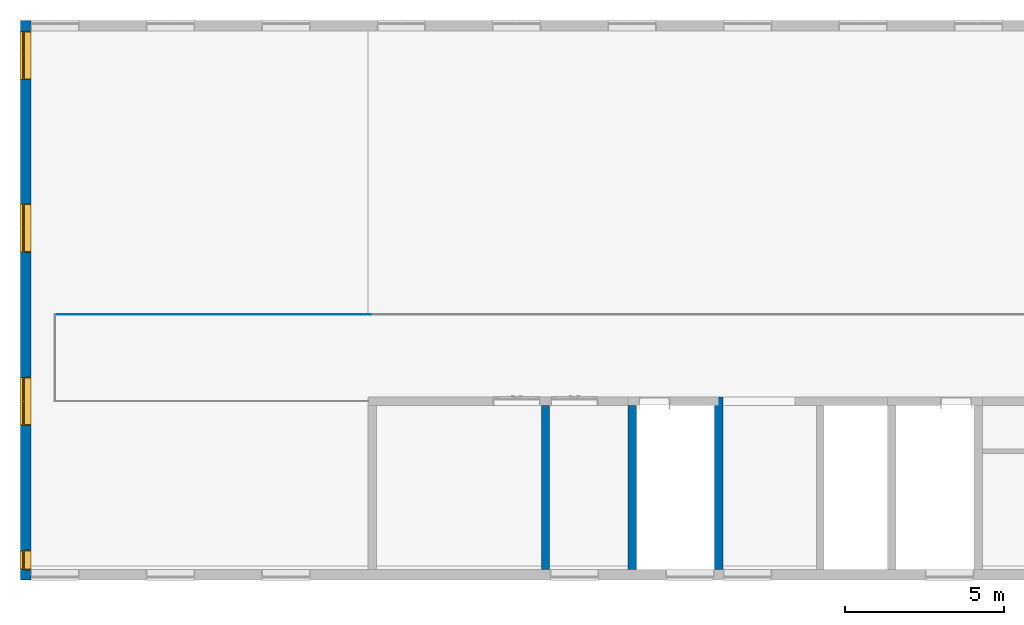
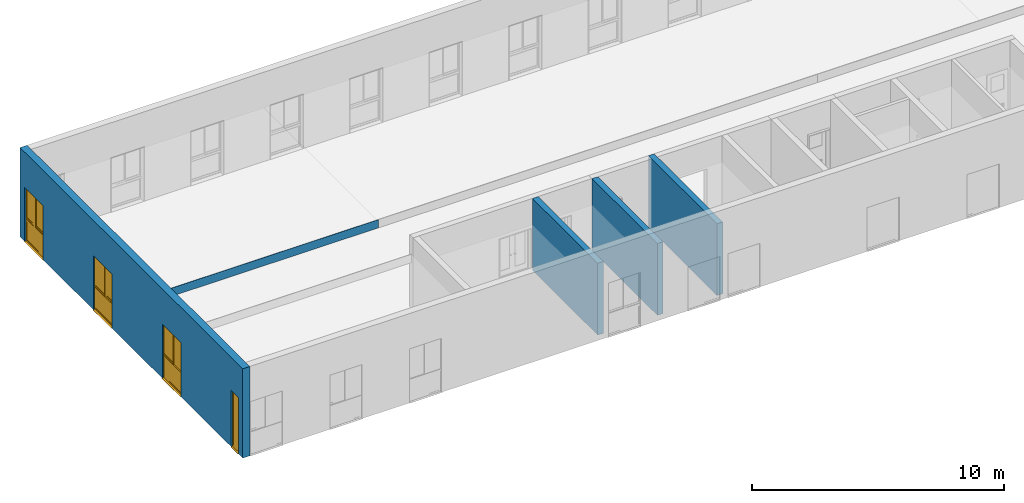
# One storey, part 3 of 11: 5 walls, 4 windows, 7 openings.
"""IFC4X3 building model written with IfcOpenShell, lengths in millimetres."""

from ifc_helpers import new_model, entity, si_unit, converted_unit, derived_unit, direction, frame, frame_2d, origin, origin_2d_with_axis, place, context, subcontext, project, spatial, polyline, rectangle, outline, extrude, faceted_brep, source, transform, mapped, material, layer, layer_set, constituent, constituent_set, type_object, type_shapes, element, fill, save


model = new_model("IFC4X3")

# Units and contexts
model_context = context("Model", 3, precision=0.01, world=origin(), true_north=direction((6.12303176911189e-17, 1.0)))
body_context = subcontext(model_context, "Body", "Model", "MODEL_VIEW")
ifc_project = project(units=[si_unit("LENGTHUNIT", "METRE", prefix="MILLI"), si_unit("AREAUNIT", "SQUARE_METRE"), si_unit("VOLUMEUNIT", "CUBIC_METRE"), converted_unit("PLANEANGLEUNIT", "DEGREE", entity("IfcPlaneAngleMeasure", 0.0174532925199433), si_unit("PLANEANGLEUNIT", "RADIAN"), dimensions=[0, 0, 0, 0, 0, 0, 0]), si_unit("MASSUNIT", "GRAM", prefix="KILO"), derived_unit("MASSDENSITYUNIT", [(si_unit("MASSUNIT", "GRAM", prefix="KILO"), 1), (si_unit("LENGTHUNIT", "METRE"), -3)]), derived_unit("IONCONCENTRATIONUNIT", [(si_unit("MASSUNIT", "GRAM", prefix="KILO"), 1), (si_unit("LENGTHUNIT", "METRE"), -3)]), derived_unit("MOMENTOFINERTIAUNIT", [(si_unit("LENGTHUNIT", "METRE"), 4)]), si_unit("TIMEUNIT", "SECOND"), si_unit("FREQUENCYUNIT", "HERTZ"), si_unit("THERMODYNAMICTEMPERATUREUNIT", "DEGREE_CELSIUS"), derived_unit("THERMALTRANSMITTANCEUNIT", [(si_unit("MASSUNIT", "GRAM", prefix="KILO"), 1), (si_unit("THERMODYNAMICTEMPERATUREUNIT", "KELVIN"), -1), (si_unit("TIMEUNIT", "SECOND"), -3)]), derived_unit("THERMALCONDUCTANCEUNIT", [(si_unit("MASSUNIT", "GRAM", prefix="KILO"), 1), (si_unit("THERMODYNAMICTEMPERATUREUNIT", "KELVIN"), -1), (si_unit("TIMEUNIT", "SECOND"), -3), (si_unit("LENGTHUNIT", "METRE"), 1)]), derived_unit("VOLUMETRICFLOWRATEUNIT", [(si_unit("LENGTHUNIT", "METRE", prefix="DECI"), 3), (si_unit("TIMEUNIT", "SECOND"), -1)]), derived_unit("MASSFLOWRATEUNIT", [(si_unit("MASSUNIT", "GRAM", prefix="KILO"), 1), (si_unit("TIMEUNIT", "SECOND"), -1)]), derived_unit("ROTATIONALFREQUENCYUNIT", [(si_unit("TIMEUNIT", "SECOND"), -1)]), si_unit("ELECTRICCURRENTUNIT", "AMPERE"), si_unit("ELECTRICVOLTAGEUNIT", "VOLT"), si_unit("POWERUNIT", "WATT"), si_unit("FORCEUNIT", "NEWTON", prefix="KILO"), si_unit("ILLUMINANCEUNIT", "LUX"), si_unit("LUMINOUSFLUXUNIT", "LUMEN"), si_unit("LUMINOUSINTENSITYUNIT", "CANDELA"), si_unit("ENERGYUNIT", "JOULE"), derived_unit("USERDEFINED", [(si_unit("MASSUNIT", "GRAM", prefix="KILO"), -1), (si_unit("LENGTHUNIT", "METRE"), -2), (si_unit("TIMEUNIT", "SECOND"), 3), (si_unit("LUMINOUSFLUXUNIT", "LUMEN"), 1)]), derived_unit("USERDEFINED", [(si_unit("MASSUNIT", "GRAM", prefix="KILO"), 1), (si_unit("TIMEUNIT", "SECOND"), -3), (si_unit("LENGTHUNIT", "METRE"), 3), (si_unit("ELECTRICCURRENTUNIT", "AMPERE"), -2)]), derived_unit("SOUNDPOWERUNIT", [(si_unit("MASSUNIT", "GRAM", prefix="KILO"), 1), (si_unit("TIMEUNIT", "SECOND"), -3), (si_unit("LENGTHUNIT", "METRE"), 2)]), derived_unit("SOUNDPRESSUREUNIT", [(si_unit("MASSUNIT", "GRAM", prefix="KILO"), 1), (si_unit("LENGTHUNIT", "METRE"), -1), (si_unit("TIMEUNIT", "SECOND"), -2)]), derived_unit("LINEARVELOCITYUNIT", [(si_unit("LENGTHUNIT", "METRE"), 1), (si_unit("TIMEUNIT", "SECOND"), -1)]), si_unit("PRESSUREUNIT", "PASCAL"), derived_unit("USERDEFINED", [(si_unit("MASSUNIT", "GRAM", prefix="KILO"), 1), (si_unit("LENGTHUNIT", "METRE"), -2), (si_unit("TIMEUNIT", "SECOND"), -2)]), derived_unit("LINEARFORCEUNIT", [(si_unit("MASSUNIT", "GRAM", prefix="KILO"), 1), (si_unit("TIMEUNIT", "SECOND"), -2)]), derived_unit("PLANARFORCEUNIT", [(si_unit("MASSUNIT", "GRAM", prefix="KILO"), 1), (si_unit("LENGTHUNIT", "METRE"), -1), (si_unit("TIMEUNIT", "SECOND"), -2)]), derived_unit("SPECIFICHEATCAPACITYUNIT", [(si_unit("THERMODYNAMICTEMPERATUREUNIT", "KELVIN"), -1), (si_unit("LENGTHUNIT", "METRE"), 2), (si_unit("TIMEUNIT", "SECOND"), -2)]), derived_unit("HEATFLUXDENSITYUNIT", [(si_unit("MASSUNIT", "GRAM", prefix="KILO"), 1), (si_unit("TIMEUNIT", "SECOND"), -3)]), derived_unit("HEATINGVALUEUNIT", [(si_unit("LENGTHUNIT", "METRE"), 2), (si_unit("TIMEUNIT", "SECOND"), -2)]), derived_unit("VAPORPERMEABILITYUNIT", [(si_unit("LENGTHUNIT", "METRE"), -1), (si_unit("TIMEUNIT", "SECOND"), 1)]), derived_unit("DYNAMICVISCOSITYUNIT", [(si_unit("MASSUNIT", "GRAM", prefix="KILO"), 1), (si_unit("TIMEUNIT", "SECOND"), -1), (si_unit("LENGTHUNIT", "METRE"), -1)]), derived_unit("THERMALEXPANSIONCOEFFICIENTUNIT", [(si_unit("THERMODYNAMICTEMPERATUREUNIT", "KELVIN"), -1)]), derived_unit("MODULUSOFELASTICITYUNIT", [(si_unit("MASSUNIT", "GRAM", prefix="KILO"), 1), (si_unit("LENGTHUNIT", "METRE"), -1), (si_unit("TIMEUNIT", "SECOND"), -2)]), derived_unit("ISOTHERMALMOISTURECAPACITYUNIT", [(si_unit("MASSUNIT", "GRAM", prefix="KILO"), -1), (si_unit("LENGTHUNIT", "METRE"), 3)]), derived_unit("MOISTUREDIFFUSIVITYUNIT", [(si_unit("TIMEUNIT", "SECOND"), -1), (si_unit("LENGTHUNIT", "METRE"), 2)]), derived_unit("AREADENSITYUNIT", [(si_unit("MASSUNIT", "GRAM", prefix="KILO"), 1), (si_unit("LENGTHUNIT", "METRE"), 2)]), derived_unit("MASSPERLENGTHUNIT", [(si_unit("MASSUNIT", "GRAM", prefix="KILO"), 1), (si_unit("LENGTHUNIT", "METRE"), -1)]), derived_unit("THERMALRESISTANCEUNIT", [(si_unit("MASSUNIT", "GRAM", prefix="KILO"), -1), (si_unit("TIMEUNIT", "SECOND"), 3), (si_unit("THERMODYNAMICTEMPERATUREUNIT", "KELVIN"), 1)]), derived_unit("ACCELERATIONUNIT", [(si_unit("LENGTHUNIT", "METRE"), 1), (si_unit("TIMEUNIT", "SECOND"), -2)]), derived_unit("ANGULARVELOCITYUNIT", [(si_unit("TIMEUNIT", "SECOND"), -1), (si_unit("PLANEANGLEUNIT", "RADIAN"), 1)]), derived_unit("LINEARSTIFFNESSUNIT", [(si_unit("MASSUNIT", "GRAM", prefix="KILO"), 1), (si_unit("TIMEUNIT", "SECOND"), -2)]), derived_unit("WARPINGCONSTANTUNIT", [(si_unit("LENGTHUNIT", "METRE"), 6)]), derived_unit("LINEARMOMENTUNIT", [(si_unit("MASSUNIT", "GRAM", prefix="KILO"), 1), (si_unit("LENGTHUNIT", "METRE"), 1), (si_unit("TIMEUNIT", "SECOND"), -2)]), derived_unit("TORQUEUNIT", [(si_unit("MASSUNIT", "GRAM", prefix="KILO"), 1), (si_unit("LENGTHUNIT", "METRE"), 2), (si_unit("TIMEUNIT", "SECOND"), -2)])], contexts=[model_context])

# Site, building, storey
site_placement = place(None, origin())
site = spatial("IfcSite", under=ifc_project, at=site_placement, Name="Default", CompositionType="ELEMENT")
building_placement = place(site_placement, origin())
building = spatial("IfcBuilding", under=site, at=building_placement, Name="事務所ビル", CompositionType="ELEMENT")
storey_placement = place(building_placement, frame((0.0, 0.0, 8000.0)))
storey = spatial("IfcBuildingStorey", under=building, at=storey_placement, Name="3FL", CompositionType="ELEMENT", Elevation=8000.0)

# Wall, openings, windows
ifc_material_1 = material(Name="<Unnamed>")
ifc_layer_1 = layer(ifc_material_1, 46.0, Name="Layer")
ifc_material_2 = material(Name="合板", Category="一般")
ifc_layer_2 = layer(ifc_material_2, 12.0, Name="合板", Category="一般")
ifc_material_3 = material(Name="天然木材", Category="一般")
ifc_layer_3 = layer(ifc_material_3, 240.0, Name="天然木材", Category="一般")
ifc_layer_4 = layer(ifc_material_2, 12.0, Name="合板", Category="一般")
ifc_material_4 = material(Name="せっこうボード", Category="一般")
ifc_layer_5 = layer(ifc_material_4, 15.0, Name="せっこうボード", Category="一般")
ifc_layer_set_1 = layer_set([ifc_layer_1, ifc_layer_2, ifc_layer_3, ifc_layer_4, ifc_layer_5], Name="標準壁:外装材46_構造用合板12_木240_構造用合板12_GB-R15")
wall_type_1 = type_object("IfcWallType", Name="標準壁:外装材46_構造用合板12_木240_構", PredefinedType="STANDARD", material=ifc_layer_set_1)
wall_1_placement = place(storey_placement, frame((-15.5000000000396, -178.0, 0.0), z_axis=(0.0, 0.0, 1.0), x_axis=(0.0, 1.0, 0.0)))
wall_1 = element("IfcWall", 1, at=wall_1_placement, inside=storey, type_object=wall_type_1, material=ifc_layer_set_1, Name="標準壁:外装材46_構造用合板12_木240_構造用合板12_GB-R15", ObjectType="標準壁:外装材46_構造用合板12_木240_構造用合板12_GB-R15", PredefinedType="NOTDEFINED", context=body_context, shape_type="SweptSolid", body=[
    extrude(rectangle(XDim=17646.0, YDim=325.0, at=frame_2d((8823.0, -2.8421709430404e-14), x_axis=(-1.0, 0.0))), origin(), (0.0, 0.0, 1.0), 4320.0),
])
opening_1_placement = place(wall_1_placement, frame((178.0, -15.5000000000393, 0.0)))
element("IfcOpeningElement", 2, at=opening_1_placement, cuts=wall_1, Name="標準壁:外装材46_構造用合板12_木240_構造用合板12_GB-R15", PredefinedType="OPENING", context=body_context, shape_type="Brep", body=[
    faceted_brep([(17133.0, -145.0, -35.0), (17133.0, -145.0, 2635.0), (17338.0, -145.0, 2635.0), (17338.0, -145.0, -35.0), (17133.0, -1675.0, -35.0), (17338.0, -1675.0, -35.0), (17338.0, -1675.0, 2635.0), (17133.0, -1675.0, 2635.0), (17338.0, -155.0, -35.0), (17338.0, -1665.0, -35.0), (17338.0, -1665.0, 2630.0), (17338.0, -155.0, 2630.0), (17408.0, -155.0, 2630.0), (17408.0, -155.0, -115.769230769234), (17338.0, -155.0, -105.0), (17338.0, -1665.0, -105.0), (17408.0, -1665.0, -115.769230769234), (17408.0, -1665.0, 2630.0), (17408.0, -175.0, 2610.0), (17408.0, -175.0, -10.0), (17408.0, -1645.0, -10.0), (17408.0, -1645.0, 2610.0), (17468.0, -175.0, 2610.0), (17468.0, -175.0, -10.0), (17468.0, -1645.0, -10.0), (17468.0, -1645.0, 2610.0)], [[[0, 1, 2, 3]], [[4, 5, 6, 7]], [[0, 3, 8, 9, 5, 4]], [[3, 2, 6, 5, 9, 10, 11, 8]], [[2, 1, 7, 6]], [[1, 0, 4, 7]], [[11, 12, 13, 14, 8]], [[15, 16, 17, 10, 9]], [[14, 13, 16, 15]], [[13, 12, 17, 16], [18, 19, 20, 21]], [[12, 11, 10, 17]], [[14, 15, 9, 8]], [[18, 22, 23, 19]], [[20, 24, 25, 21]], [[19, 23, 24, 20]], [[23, 22, 25, 24]], [[22, 18, 21, 25]]]),
])
opening_2_placement = place(wall_1_placement, frame((178.0, -15.5000000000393, 0.0)))
element("IfcOpeningElement", 3, at=opening_2_placement, cuts=wall_1, Name="標準壁:外装材46_構造用合板12_木240_構造用合板12_GB-R15", PredefinedType="OPENING", context=body_context, shape_type="Brep", body=[
    faceted_brep([(157.0, -145.0, -35.0), (-48.0, -145.0, -35.0), (-48.0, -145.0, 2635.0), (157.0, -145.0, 2635.0), (157.0, -1675.0, -35.0), (157.0, -1675.0, 2635.0), (-48.0, -1675.0, 2635.0), (-48.0, -1675.0, -35.0), (-48.0, -1665.0, -35.0), (-48.0, -155.0, -35.0), (-48.0, -155.0, 2630.0), (-48.0, -1665.0, 2630.0), (-48.0, -155.0, -105.0), (-118.0, -155.0, -115.769230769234), (-118.0, -155.0, 2630.0), (-48.0, -1665.0, -105.0), (-118.0, -1665.0, 2630.0), (-118.0, -1665.0, -115.769230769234), (-118.0, -175.0, 2610.0), (-118.0, -1645.0, 2610.0), (-118.0, -1645.0, -10.0), (-118.0, -175.0, -10.0), (-178.0, -175.0, -10.0), (-178.0, -175.0, 2610.0), (-178.0, -1645.0, 2610.0), (-178.0, -1645.0, -10.0)], [[[0, 1, 2, 3]], [[4, 5, 6, 7]], [[0, 4, 7, 8, 9, 1]], [[1, 9, 10, 11, 8, 7, 6, 2]], [[2, 6, 5, 3]], [[3, 5, 4, 0]], [[10, 9, 12, 13, 14]], [[15, 8, 11, 16, 17]], [[12, 15, 17, 13]], [[13, 17, 16, 14], [18, 19, 20, 21]], [[14, 16, 11, 10]], [[12, 9, 8, 15]], [[18, 21, 22, 23]], [[20, 19, 24, 25]], [[21, 20, 25, 22]], [[22, 25, 24, 23]], [[23, 24, 19, 18]]]),
])
opening_3_placement = place(wall_1_placement, frame((178.0, -15.5000000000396, 0.0), z_axis=(0.0, 0.0, 1.0), x_axis=(0.0, -1.0, 0.0)))
opening_3 = element("IfcOpeningElement", 4, at=opening_3_placement, cuts=wall_1, Name="標準壁:外装材46_構造用合板12_木240_構造用合板12_GB-R15", PredefinedType="OPENING", context=body_context, shape_type="Brep", body=[
    faceted_brep([(-48.0, 15611.4999999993, -105.0), (-48.0, 17121.4999999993, -105.0), (-48.0, 17121.4999999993, -35.0), (-48.0, 15611.4999999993, -35.0), (-118.0, 15631.4999999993, 2610.0), (-178.0, 15631.4999999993, 2610.0), (-178.0, 15631.4999999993, -10.0), (-118.0, 15631.4999999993, -10.0), (-118.0, 17101.4999999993, -10.0), (-178.0, 17101.4999999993, -10.0), (-178.0, 17101.4999999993, 2610.0), (-118.0, 17101.4999999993, 2610.0), (157.0, 15601.4999999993, -35.0), (157.0, 15601.4999999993, 2635.0), (-48.0, 15601.4999999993, 2635.0), (-48.0, 15601.4999999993, -35.0), (157.0, 17131.4999999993, -35.0), (-48.0, 17131.4999999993, -35.0), (-48.0, 17131.4999999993, 2635.0), (157.0, 17131.4999999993, 2635.0), (-48.0, 17121.4999999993, 2630.0), (-48.0, 15611.4999999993, 2630.0), (-118.0, 15611.4999999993, 2630.0), (-118.0, 15611.4999999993, -115.769230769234), (-118.0, 17121.4999999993, -115.769230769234), (-118.0, 17121.4999999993, 2630.0)], [[[0, 1, 2, 3]], [[4, 5, 6, 7]], [[8, 9, 10, 11]], [[7, 6, 9, 8]], [[5, 4, 11, 10]], [[12, 13, 14, 15]], [[16, 17, 18, 19]], [[12, 15, 3, 2, 17, 16]], [[15, 14, 18, 17, 2, 20, 21, 3]], [[14, 13, 19, 18]], [[13, 12, 16, 19]], [[21, 22, 23, 0, 3]], [[1, 24, 25, 20, 2]], [[0, 23, 24, 1]], [[23, 22, 25, 24], [4, 7, 8, 11]], [[22, 21, 20, 25]], [[6, 5, 10, 9]]]),
])
opening_4_placement = place(wall_1_placement, frame((178.0, -15.5000000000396, 0.0), z_axis=(0.0, 0.0, 1.0), x_axis=(0.0, -1.0, 0.0)))
opening_4 = element("IfcOpeningElement", 5, at=opening_4_placement, cuts=wall_1, Name="標準壁:外装材46_構造用合板12_木240_構造用合板12_GB-R15", PredefinedType="OPENING", context=body_context, shape_type="Brep", body=[
    faceted_brep([(-48.0, 10165.0, -105.0), (-48.0, 11675.0, -105.0), (-48.0, 11675.0, -35.0), (-48.0, 10165.0, -35.0), (-118.0, 10185.0, 2610.0), (-178.0, 10185.0, 2610.0), (-178.0, 10185.0, -10.0), (-118.0, 10185.0, -10.0), (-118.0, 11655.0, -10.0), (-178.0, 11655.0, -10.0), (-178.0, 11655.0, 2610.0), (-118.0, 11655.0, 2610.0), (157.0, 10155.0, -35.0), (157.0, 10155.0, 2635.0), (-48.0, 10155.0, 2635.0), (-48.0, 10155.0, -35.0), (157.0, 11685.0, -35.0), (-48.0, 11685.0, -35.0), (-48.0, 11685.0, 2635.0), (157.0, 11685.0, 2635.0), (-48.0, 11675.0, 2630.0), (-48.0, 10165.0, 2630.0), (-118.0, 10165.0, 2630.0), (-118.0, 10165.0, -115.769230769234), (-118.0, 11675.0, -115.769230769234), (-118.0, 11675.0, 2630.0)], [[[0, 1, 2, 3]], [[4, 5, 6, 7]], [[8, 9, 10, 11]], [[7, 6, 9, 8]], [[5, 4, 11, 10]], [[12, 13, 14, 15]], [[16, 17, 18, 19]], [[12, 15, 3, 2, 17, 16]], [[15, 14, 18, 17, 2, 20, 21, 3]], [[14, 13, 19, 18]], [[13, 12, 16, 19]], [[21, 22, 23, 0, 3]], [[1, 24, 25, 20, 2]], [[0, 23, 24, 1]], [[23, 22, 25, 24], [4, 7, 8, 11]], [[22, 21, 20, 25]], [[6, 5, 10, 9]]]),
])
opening_5_placement = place(wall_1_placement, frame((178.0, -15.5000000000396, 0.0), z_axis=(0.0, 0.0, 1.0), x_axis=(0.0, -1.0, 0.0)))
opening_5 = element("IfcOpeningElement", 6, at=opening_5_placement, cuts=wall_1, Name="標準壁:外装材46_構造用合板12_木240_構造用合板12_GB-R15", PredefinedType="OPENING", context=body_context, shape_type="Brep", body=[
    faceted_brep([(-48.0, 4705.0, -105.0), (-48.0, 6215.0, -105.0), (-48.0, 6215.0, -35.0), (-48.0, 4705.0, -35.0), (-118.0, 4725.0, 2610.0), (-178.0, 4725.0, 2610.0), (-178.0, 4725.0, -10.0), (-118.0, 4725.0, -10.0), (-118.0, 6195.0, -10.0), (-178.0, 6195.0, -10.0), (-178.0, 6195.0, 2610.0), (-118.0, 6195.0, 2610.0), (157.0, 4695.0, -35.0), (157.0, 4695.0, 2635.0), (-48.0, 4695.0, 2635.0), (-48.0, 4695.0, -35.0), (157.0, 6225.0, -35.0), (-48.0, 6225.0, -35.0), (-48.0, 6225.0, 2635.0), (157.0, 6225.0, 2635.0), (-48.0, 6215.0, 2630.0), (-48.0, 4705.0, 2630.0), (-118.0, 4705.0, 2630.0), (-118.0, 4705.0, -115.769230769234), (-118.0, 6215.0, -115.769230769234), (-118.0, 6215.0, 2630.0)], [[[0, 1, 2, 3]], [[4, 5, 6, 7]], [[8, 9, 10, 11]], [[7, 6, 9, 8]], [[5, 4, 11, 10]], [[12, 13, 14, 15]], [[16, 17, 18, 19]], [[12, 15, 3, 2, 17, 16]], [[15, 14, 18, 17, 2, 20, 21, 3]], [[14, 13, 19, 18]], [[13, 12, 16, 19]], [[21, 22, 23, 0, 3]], [[1, 24, 25, 20, 2]], [[0, 23, 24, 1]], [[23, 22, 25, 24], [4, 7, 8, 11]], [[22, 21, 20, 25]], [[6, 5, 10, 9]]]),
])
opening_6_placement = place(wall_1_placement, frame((178.0, -15.5000000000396, 0.0), z_axis=(0.0, 0.0, 1.0), x_axis=(0.0, -1.0, 0.0)))
opening_6 = element("IfcOpeningElement", 7, at=opening_6_placement, cuts=wall_1, Name="標準壁:外装材46_構造用合板12_木240_構造用合板12_GB-R15", PredefinedType="OPENING", context=body_context, shape_type="Brep", body=[
    faceted_brep([(-48.0, 765.0, -35.0), (-48.0, 755.0, -35.0), (-48.0, 755.0, 2730.0), (-48.0, 155.0, 2730.0), (-48.0, 155.0, -35.0), (-48.0, 145.0, -35.0), (-48.0, 145.0, 2735.0), (-48.0, 765.0, 2735.0), (-118.0, 755.0, -115.769230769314), (-118.0, 735.0, -115.769230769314), (-118.0, 735.0, 2710.0), (-118.0, 175.0, 2710.0), (-118.0, 175.0, -115.769230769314), (-118.0, 155.0, -115.769230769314), (-118.0, 155.0, 2730.0), (-118.0, 755.0, 2730.0), (157.0, 765.0, -35.0), (157.0, 765.0, 2735.0), (157.0, 145.0, -35.0), (157.0, 145.0, 2735.0), (-48.0, 755.0, -105.0), (-48.0, 155.0, -105.0), (-178.0, 175.0, -125.0), (-178.0, 735.0, -125.0), (-178.0, 735.0, 2710.0), (-178.0, 175.0, 2710.0)], [[[0, 1, 2, 3, 4, 5, 6, 7]], [[8, 9, 10, 11, 12, 13, 14, 15]], [[16, 0, 7, 17]], [[18, 19, 6, 5]], [[16, 18, 5, 4, 1, 0]], [[7, 6, 19, 17]], [[17, 19, 18, 16]], [[2, 1, 20, 8, 15]], [[21, 4, 3, 14, 13]], [[20, 21, 13, 12, 22, 23, 9, 8]], [[15, 14, 3, 2]], [[20, 1, 4, 21]], [[10, 9, 23, 24]], [[12, 11, 25, 22]], [[23, 22, 25, 24]], [[24, 25, 11, 10]]]),
])
ifc_material_5 = material(Name="ガラス - 透明", Category="未設定")
ifc_constituent_1 = constituent(ifc_material_5, Name="ガラス - 透明", Category="未設定")
ifc_material_6 = material(Name="金属 - アルミニウム", Category="未設定")
ifc_constituent_2 = constituent(ifc_material_6, Name="金属 - アルミニウム", Category="未設定")
ifc_material_7 = material(Name="塗装 - 白", Category="未設定")
ifc_constituent_3 = constituent(ifc_material_7, Name="塗装 - 白", Category="未設定")
ifc_constituent_set_1 = constituent_set(constituents=[ifc_constituent_1, ifc_constituent_2, ifc_constituent_3])
ifc_constituent_4 = constituent(ifc_material_5, Name="ガラス", Category="未設定")
ifc_constituent_5 = constituent(ifc_material_6, Name="フレーム/マリオン", Category="未設定")
ifc_constituent_6 = constituent(ifc_material_7, Name="縁飾り", Category="未設定")
ifc_constituent_set_2 = constituent_set(constituents=[ifc_constituent_4, ifc_constituent_5, ifc_constituent_6])
window_type_1 = type_object("IfcWindowType", Name="鋼製_一般枠_2 段 1 列_嵌殺し+引違い:", ParameterTakesPrecedence=False, PartitioningType="NOTDEFINED", PredefinedType="WINDOW", material=ifc_constituent_set_2)
shared_shape_1 = source(origin(), body_context, "Body", "SweptSolid", [
    extrude(rectangle(XDim=664.999999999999, YDim=5.00000000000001, at=frame_2d((2.8421709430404e-14, 0.0), x_axis=(1.0, 0.0))), frame((412.500000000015, 212.500000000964, 1295.76923076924)), (0.0, 0.0, 1.0), 1379.99999999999),
    extrude(rectangle(XDim=664.999999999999, YDim=5.0, at=frame_2d((-2.8421709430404e-14, -8.43769498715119e-15), x_axis=(1.0, 0.0))), frame((1117.50000000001, 242.500000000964, 1295.76923076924)), (0.0, 0.0, 1.0), 1379.99999999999),
    extrude(outline(polyline([(-372.5, -750.0), (372.5, -750.0), (372.5, 750.0), (-372.5, 750.0), (-372.5, -750.0)]), holes=[polyline([(-332.5, -670.0), (-332.5, 710.0), (332.5, 710.0), (332.5, -670.0), (-332.5, -670.0)])]), frame((412.500000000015, 220.0, 1965.76923076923), z_axis=(0.0, -1.0, 0.0), x_axis=(1.0, 0.0, 0.0)), (0.0, 0.0, 1.0), 30.0),
    extrude(outline(polyline([(-372.5, -750.0), (372.5, -750.0), (372.5, 750.0), (-372.5, 750.0), (-372.5, -750.0)]), holes=[polyline([(-332.5, -670.0), (-332.5, 710.0), (332.499999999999, 710.0), (332.499999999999, -670.0), (-332.5, -670.0)])]), frame((1117.50000000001, 250.0, 1965.76923076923), z_axis=(0.0, -1.0, 0.0), x_axis=(1.0, 0.0, 0.0)), (0.0, 0.0, 1.0), 30.0),
    extrude(rectangle(XDim=1370.0, YDim=5.0, at=frame_2d((0.0, -8.43769498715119e-15), x_axis=(1.0, 0.0))), frame((765.0, 242.500000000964, 205.769230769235)), (0.0, 0.0, 1.0), 869.999999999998),
    extrude(outline(polyline([(-725.0, -500.0), (725.0, -500.0), (725.0, 500.0), (-725.0, 500.0), (-725.0, -500.0)]), holes=[polyline([(-685.0, -410.0), (-685.0, 460.0), (685.0, 460.0), (685.0, -410.0), (-685.0, -410.0)])]), frame((765.0, 250.0, 615.769230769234), z_axis=(0.0, -1.0, 0.0), x_axis=(1.0, 0.0, 0.0)), (0.0, 0.0, 1.0), 30.0),
    extrude(outline(polyline([(0.116728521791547, -43.8885662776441), (10.1167285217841, -43.8885662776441), (10.1167285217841, -38.8900180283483), (4.2582136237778, -38.8900180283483), (-5.07531327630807, 31.1114337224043), (0.116728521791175, 31.1114337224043), (0.116728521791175, 36.1114337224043), (-9.88327147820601, 36.1114337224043), (-9.88327147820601, 31.1114337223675), (0.116728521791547, -43.8885662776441)])), frame((1520.0, 286.11143372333, 115.885959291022), z_axis=(-1.0, 0.0, 0.0), x_axis=(0.0, 0.0, -1.0)), (0.0, 0.0, 1.0), 1510.0),
    extrude(rectangle(XDim=1530.0, YDim=205.000000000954, at=frame_2d((-5.6843418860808e-14, 0.0), x_axis=(1.0, 0.0))), frame((765.0, 82.5000000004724, 105.769230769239)), (0.0, 0.0, 1.0), 9.99999999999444),
    extrude(outline(polyline([(740.0, -1311.25000000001), (765.0, -1311.25000000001), (765.0, 1323.75000000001), (-765.0, 1323.75000000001), (-765.0, -1311.25000000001), (-740.0, -1311.25000000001), (-740.0, 1298.75000000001), (740.0, 1298.75000000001), (740.0, -1311.25000000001)])), frame((765.0, 185.0, 1427.01923076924), z_axis=(0.0, -1.0, 0.0), x_axis=(1.0, 0.0, 0.0)), (0.0, 0.0, 1.0), 205.000000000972),
    extrude(outline(polyline([(725.0, -1307.5), (755.0, -1307.5), (755.0, 1322.5), (-755.0, 1322.5), (-755.0, -1307.5), (-725.0, -1307.5), (-725.0, 1292.5), (725.0, 1292.5), (725.0, -1307.5)])), frame((765.0, 255.0, 1423.26923076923), z_axis=(0.0, -1.0, 0.0), x_axis=(1.0, 0.0, 0.0)), (0.0, 0.0, 1.0), 69.9999999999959),
    extrude(rectangle(XDim=70.0, YDim=1450.0, at=frame_2d((0.0, 5.6843418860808e-14), x_axis=(1.0, 0.0))), frame((765.0, 220.0, 105.769230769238), z_axis=(0.0, 0.0, 1.0), x_axis=(0.0, 1.0, 0.0)), (0.0, 0.0, 1.0), 18.7551639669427),
    extrude(outline(polyline([(-35.0, -47.4999999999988), (35.0, -47.4999999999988), (35.0, 52.4999999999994), (-35.0, 42.4999999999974), (-35.0, -47.4999999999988)])), frame((1490.0, 220.0, 1163.26923076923), z_axis=(-1.0, 0.0, 0.0), x_axis=(0.0, -1.0, 0.0)), (0.0, 0.0, 1.0), 1450.0),
])
type_shapes(window_type_1, [shared_shape_1])
window_1_placement = place(opening_5_placement, frame((137.0, 4695.0, -115.769230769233), z_axis=(0.0, 0.0, 1.0), x_axis=(0.0, 1.0, 0.0)))
window_1 = element("IfcWindow", 8, at=window_1_placement, inside=storey, type_object=window_type_1, material=ifc_constituent_set_1, Name="鋼製_一般枠_2 段 1 列_嵌殺し+引違い:1450x2600", ObjectType="鋼製_一般枠_2 段 1 列_嵌殺し+引違い:1450x2600", OverallHeight=2760.00000000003, OverallWidth=1532.0, PartitioningType="NOTDEFINED", PredefinedType="WINDOW", context=body_context, shape_type="MappedRepresentation", body=[
    mapped(shared_shape_1, transform((0.0, 0.0, 0.0), scale=1.0)),
])
fill(opening_5, window_1)
ifc_constituent_7 = constituent(ifc_material_5, Name="ガラス - 透明", Category="未設定")
ifc_constituent_8 = constituent(ifc_material_6, Name="金属 - アルミニウム", Category="未設定")
ifc_constituent_9 = constituent(ifc_material_7, Name="塗装 - 白", Category="未設定")
ifc_constituent_set_3 = constituent_set(constituents=[ifc_constituent_7, ifc_constituent_8, ifc_constituent_9])
window_2_placement = place(opening_4_placement, frame((137.0, 10155.0, -115.769230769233), z_axis=(0.0, 0.0, 1.0), x_axis=(0.0, 1.0, 0.0)))
window_2 = element("IfcWindow", 9, at=window_2_placement, inside=storey, type_object=window_type_1, material=ifc_constituent_set_3, Name="鋼製_一般枠_2 段 1 列_嵌殺し+引違い:1450x2600", ObjectType="鋼製_一般枠_2 段 1 列_嵌殺し+引違い:1450x2600", OverallHeight=2760.00000000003, OverallWidth=1532.0, PartitioningType="NOTDEFINED", PredefinedType="WINDOW", context=body_context, shape_type="MappedRepresentation", body=[
    mapped(shared_shape_1, transform((0.0, 0.0, 0.0), scale=1.0)),
])
fill(opening_4, window_2)
ifc_constituent_10 = constituent(ifc_material_5, Name="ガラス - 透明", Category="未設定")
ifc_constituent_11 = constituent(ifc_material_6, Name="金属 - アルミニウム", Category="未設定")
ifc_constituent_12 = constituent(ifc_material_7, Name="塗装 - 白", Category="未設定")
ifc_constituent_set_4 = constituent_set(constituents=[ifc_constituent_10, ifc_constituent_11, ifc_constituent_12])
window_3_placement = place(opening_3_placement, frame((137.0, 15601.4999999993, -115.769230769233), z_axis=(0.0, 0.0, 1.0), x_axis=(0.0, 1.0, 0.0)))
window_3 = element("IfcWindow", 10, at=window_3_placement, inside=storey, type_object=window_type_1, material=ifc_constituent_set_4, Name="鋼製_一般枠_2 段 1 列_嵌殺し+引違い:1450x2600", ObjectType="鋼製_一般枠_2 段 1 列_嵌殺し+引違い:1450x2600", OverallHeight=2760.00000000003, OverallWidth=1532.0, PartitioningType="NOTDEFINED", PredefinedType="WINDOW", context=body_context, shape_type="MappedRepresentation", body=[
    mapped(shared_shape_1, transform((0.0, 0.0, 0.0), scale=1.0)),
])
fill(opening_3, window_3)
ifc_constituent_13 = constituent(ifc_material_5, Name="ガラス - 透明", Category="未設定")
ifc_constituent_14 = constituent(ifc_material_6, Name="金属 - アルミニウム", Category="未設定")
ifc_constituent_15 = constituent(ifc_material_7, Name="塗装 - 白", Category="未設定")
ifc_constituent_set_5 = constituent_set(constituents=[ifc_constituent_13, ifc_constituent_14, ifc_constituent_15])
ifc_constituent_16 = constituent(ifc_material_5, Name="ガラス", Category="未設定")
ifc_constituent_17 = constituent(ifc_material_6, Name="フレーム/マリオン", Category="未設定")
ifc_constituent_18 = constituent(ifc_material_7, Name="縁飾り", Category="未設定")
ifc_constituent_set_6 = constituent_set(constituents=[ifc_constituent_16, ifc_constituent_17, ifc_constituent_18])
window_type_2 = type_object("IfcWindowType", Name="鋼製_一般枠_嵌殺し:540x2700", ParameterTakesPrecedence=False, PartitioningType="NOTDEFINED", PredefinedType="WINDOW", material=ifc_constituent_set_6)
shared_shape_2 = source(origin(), body_context, "Body", "SweptSolid", [
    extrude(rectangle(XDim=5.0, YDim=459.999999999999, at=frame_2d((8.43769498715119e-15, 0.0), x_axis=(1.0, 0.0))), frame((310.0, -68.4999999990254, 215.0), z_axis=(0.0, 0.0, 1.0), x_axis=(0.0, 1.0, 0.0)), (0.0, 0.0, 1.0), 2570.0),
    extrude(outline(polyline([(-1350.0, -270.0), (1350.0, -270.0), (1350.0, 270.0), (-1350.0, 270.0), (-1350.0, -270.0)]), holes=[polyline([(-1310.0, -230.0), (-1310.0, 230.0), (1260.0, 230.0), (1260.0, -230.0), (-1310.0, -230.0)])]), frame((310.0, -91.0, 1475.0), z_axis=(0.0, 1.0, 0.0), x_axis=(0.0, 0.0, -1.0)), (0.0, 0.0, 1.0), 30.0),
    extrude(outline(polyline([(-43.5189986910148, -5.68477162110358), (32.1447310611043, -5.68477162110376), (37.1008705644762, -5.02395302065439), (35.7792333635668, 4.88832598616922), (30.8230938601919, 4.22750738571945), (31.5092934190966, -0.918989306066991), (-39.1116522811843, -0.918989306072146), (-39.8859354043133, 4.88813411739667), (-44.8406358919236, 4.2275073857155), (-43.5189986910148, -5.68477162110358)])), frame((30.0, -28.8885662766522, 125.116728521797), z_axis=(1.0, 0.0, 0.0), x_axis=(0.0, -0.99122790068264, 0.132163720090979)), (0.0, 0.0, 1.0), 559.999999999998),
    extrude(rectangle(XDim=205.000000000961, YDim=619.999999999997, at=origin_2d_with_axis()), frame((310.0, -232.499999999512, 90.0), z_axis=(0.0, 0.0, 1.0), x_axis=(0.0, 1.0, 0.0)), (0.0, 0.0, 1.0), 25.0),
    extrude(outline(polyline([(-1378.75, -310.0), (1391.25, -310.0), (1391.25, 310.0), (-1378.75, 310.0), (-1378.75, 285.0), (1366.25, 285.0), (1366.25, -285.0), (-1378.75, -285.0), (-1378.75, -310.0)])), frame((310.0, -335.0, 1468.75000000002), z_axis=(0.0, 1.0, 0.0), x_axis=(0.0, 0.0, 1.0)), (0.0, 0.0, 1.0), 205.000000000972),
    extrude(outline(polyline([(-1357.5, -300.0), (1372.5, -300.0), (1372.5, 300.0), (-1357.5, 300.0), (-1357.5, 270.0), (1342.5, 270.0), (1342.5, -270.0), (-1357.5, -270.0), (-1357.5, -300.0)])), frame((310.0, -130.0, 1482.50000000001), z_axis=(0.0, 1.0, 0.0), x_axis=(0.0, 0.0, 1.0)), (0.0, 0.0, 1.0), 69.9999999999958),
    extrude(rectangle(XDim=539.999999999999, YDim=69.9999999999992, at=frame_2d((0.0, 7.105427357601e-15), x_axis=(1.0, 0.0))), frame((310.0, -95.0, 125.0)), (0.0, 0.0, 1.0), 15.0000000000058),
])
type_shapes(window_type_2, [shared_shape_2])
window_4_placement = place(opening_6_placement, frame((-178.0, 145.0, -125.0), z_axis=(0.0, 0.0, 1.0), x_axis=(0.0, 1.0, 0.0)))
window_4 = element("IfcWindow", 11, at=window_4_placement, inside=storey, type_object=window_type_2, material=ifc_constituent_set_5, Name="鋼製_一般枠_嵌殺し:540x2700", ObjectType="鋼製_一般枠_嵌殺し:540x2700", OverallHeight=2860.00000000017, OverallWidth=621.999999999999, PartitioningType="NOTDEFINED", PredefinedType="WINDOW", context=body_context, shape_type="MappedRepresentation", body=[
    mapped(shared_shape_2, transform((0.0, 0.0, 0.0), scale=1.0)),
])
fill(opening_6, window_4)

# Walls
ifc_layer_6 = layer(ifc_material_4, 15.0, Name="せっこうボード", Category="一般")
ifc_layer_7 = layer(ifc_material_2, 12.0, Name="合板", Category="一般")
ifc_layer_8 = layer(ifc_material_3, 210.0, Name="天然木材", Category="一般")
ifc_layer_9 = layer(ifc_material_2, 12.0, Name="合板", Category="一般")
ifc_layer_10 = layer(ifc_material_4, 15.0, Name="せっこうボード", Category="一般")
ifc_layer_set_2 = layer_set([ifc_layer_6, ifc_layer_7, ifc_layer_8, ifc_layer_9, ifc_layer_10], Name="標準壁:GB-R15_構造用合板12_木210_構造用合板12_GB-R15")
wall_type_2 = type_object("IfcWallType", Name="標準壁:GB-R15_構造用合板12_木210_構造用合板12_GB-R15", PredefinedType="STANDARD", material=ifc_layer_set_2)
wall_2_placement = place(storey_placement, frame((16380.0, 147.0, 0.0), z_axis=(0.0, 0.0, 1.0), x_axis=(0.0, 1.0, 0.0)))
element("IfcWall", 12, at=wall_2_placement, inside=storey, type_object=wall_type_2, material=ifc_layer_set_2, Name="標準壁:GB-R15_構造用合板12_木210_構造用合板12_GB-R15", ObjectType="標準壁:GB-R15_構造用合板12_木210_構造用合板12_GB-R15", PredefinedType="NOTDEFINED", context=body_context, shape_type="SweptSolid", body=[
    extrude(rectangle(XDim=5181.00000000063, YDim=264.000000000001, at=frame_2d((2590.50000000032, -2.27373675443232e-13), x_axis=(-1.0, 0.0))), origin(), (0.0, 0.0, 1.0), 3470.0),
])
wall_3_placement = place(storey_placement, frame((19110.0, 147.0, 0.0), z_axis=(0.0, 0.0, 1.0), x_axis=(0.0, 1.0, 0.0)))
element("IfcWall", 13, at=wall_3_placement, inside=storey, type_object=wall_type_2, material=ifc_layer_set_2, Name="標準壁:GB-R15_構造用合板12_木210_構造用合板12_GB-R15", ObjectType="標準壁:GB-R15_構造用合板12_木210_構造用合板12_GB-R15", PredefinedType="NOTDEFINED", context=body_context, shape_type="SweptSolid", body=[
    extrude(rectangle(XDim=5181.00000000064, YDim=264.000000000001, at=frame_2d((2590.50000000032, -2.27373675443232e-13), x_axis=(-1.0, 0.0))), origin(), (0.0, 0.0, 1.0), 3470.0),
])

# Wall, opening
wall_4_placement = place(storey_placement, frame((21840.0, 147.0, 0.0), z_axis=(0.0, 0.0, 1.0), x_axis=(0.0, 1.0, 0.0)))
wall_4 = element("IfcWall", 14, at=wall_4_placement, inside=storey, type_object=wall_type_2, material=ifc_layer_set_2, Name="標準壁:GB-R15_構造用合板12_木210_構造用合板12_GB-R15", ObjectType="標準壁:GB-R15_構造用合板12_木210_構造用合板12_GB-R15", PredefinedType="NOTDEFINED", context=body_context, shape_type="SweptSolid", body=[
    extrude(rectangle(XDim=5445.00000000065, YDim=264.000000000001, at=frame_2d((2722.50000000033, -1.4210854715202e-14), x_axis=(1.0, 0.0))), origin(), (0.0, 0.0, 1.0), 3470.0),
])
opening_7_placement = place(wall_4_placement, frame((-147.0, 21840.0, 0.0)))
element("IfcOpeningElement", 15, at=opening_7_placement, cuts=wall_4, Name="標準壁:GB-R15_構造用合板12_木210_構造用合板12_GB-R15", PredefinedType="OPENING", context=body_context, shape_type="SweptSolid", body=[
    extrude(rectangle(XDim=2100.0, YDim=264.0, at=frame_2d((-5.40012479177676e-13, 0.0), x_axis=(0.0, 1.0))), frame((5460.0, -24247.0, 1050.0), z_axis=(0.0, 1.0, 0.0), x_axis=(1.0, 0.0, 0.0)), (0.0, 0.0, 1.0), 2275.0),
])

# Wall
ifc_layer_11 = layer(ifc_material_1, 15.0, Name="Layer")
ifc_layer_set_3 = layer_set([ifc_layer_11], Name="標準壁:GB-R15")
wall_type_3 = type_object("IfcWallType", Name="標準壁:GB-R15", PredefinedType="STANDARD", material=ifc_layer_set_3)
wall_5_placement = place(storey_placement, frame((917.499999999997, 8190.0, 2200.0)))
element("IfcWall", 16, at=wall_5_placement, inside=storey, type_object=wall_type_3, material=ifc_layer_set_3, Name="標準壁:GB-R15", ObjectType="標準壁:GB-R15", PredefinedType="NOTDEFINED", context=body_context, shape_type="SweptSolid", body=[
    extrude(rectangle(XDim=9945.49999999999, YDim=15.0000000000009, at=frame_2d((4972.75, -1.24344978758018e-14), x_axis=(-1.0, 0.0))), origin(), (0.0, 0.0, 1.0), 399.999999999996),
])

save(model, "model.ifc")
